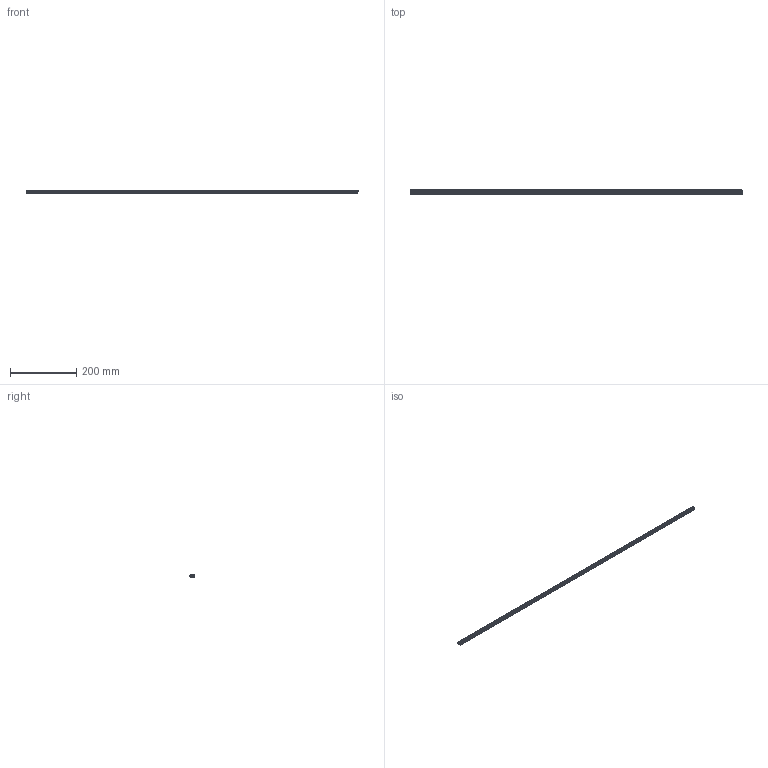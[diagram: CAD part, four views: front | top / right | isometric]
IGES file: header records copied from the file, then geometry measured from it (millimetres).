
Start section: SolidWorks IGES file using analytic representation for surfaces
Global section: file name: C:\Users\admin\Desktop\IGES\J3MPS.igs; native system: SolidWorks 2014; preprocessor: SolidWorks 2014; author: admin_pc; date: 170524.165516; units: millimetre
Bounding box: 1000 x 13.35 x 7.23 mm (x, y, z)
Surface area: 60959.7 mm2 (no closed solid volume)
Topology: 0 solids, 0 shells, 53 faces, 452 edges, 452 vertices
Faces by surface type: bspline 28, revolution 25
